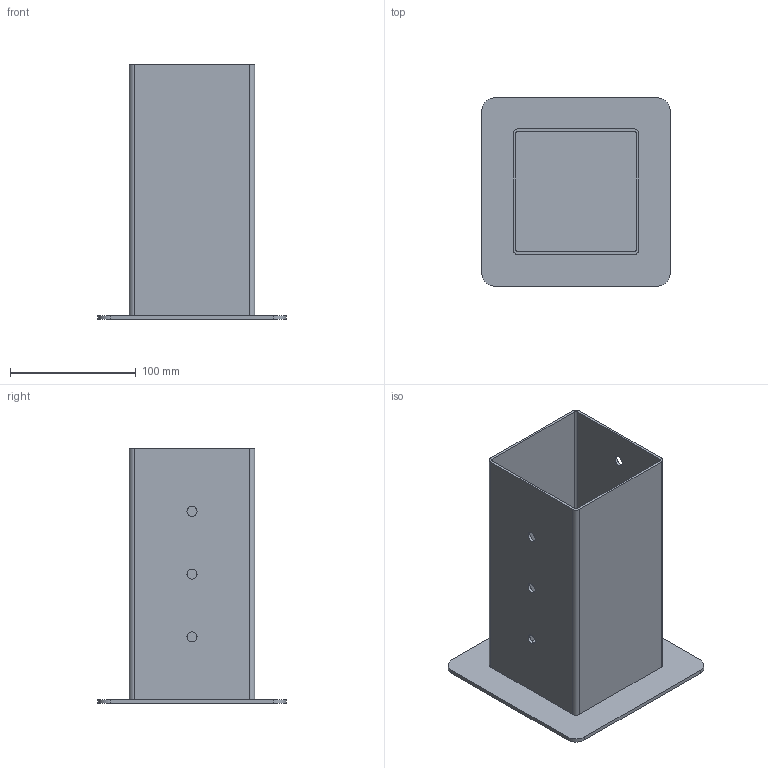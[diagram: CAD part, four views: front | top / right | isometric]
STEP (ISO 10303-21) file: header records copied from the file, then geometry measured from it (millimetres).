
FILE_DESCRIPTION(('STEP AP214'), '1');
FILE_NAME('ﾎ魵瑙韃', '', ('UNSPECIFIED'), ('UNSPECIFIED'), 'C3D Converter', 'C3D Toolkit', '');
FILE_SCHEMA(('AUTOMOTIVE_DESIGN { 1 0 10303 214 3 1 1}'));
Length unit declared in the file: millimetre
Products named in the file (3): АКСЛ.298.100 СБ; АКСЛ.298.101; АКСЛ.298.401
Assembly tree (2 placements, depth 2):
  АКСЛ.298.100 СБ
    АКСЛ.298.101
    АКСЛ.298.401
Bounding box: 150 x 150 x 203 mm (x, y, z)
Volume: 221379.1 mm3; surface area: 202562.4 mm2
Topology: 2 solids, 2 shells, 34 faces, 90 edges, 60 vertices
Faces by surface type: cylinder 18, plane 16
Full cylindrical faces by diameter (mm): 8 x6
Entity records: 1211 total; most frequent: DIRECTION 194, CARTESIAN_POINT 181, ORIENTED_EDGE 168, EDGE_CURVE 84, AXIS2_PLACEMENT_3D 73, VERTEX_POINT 60, EDGE_LOOP 54, LINE 48
